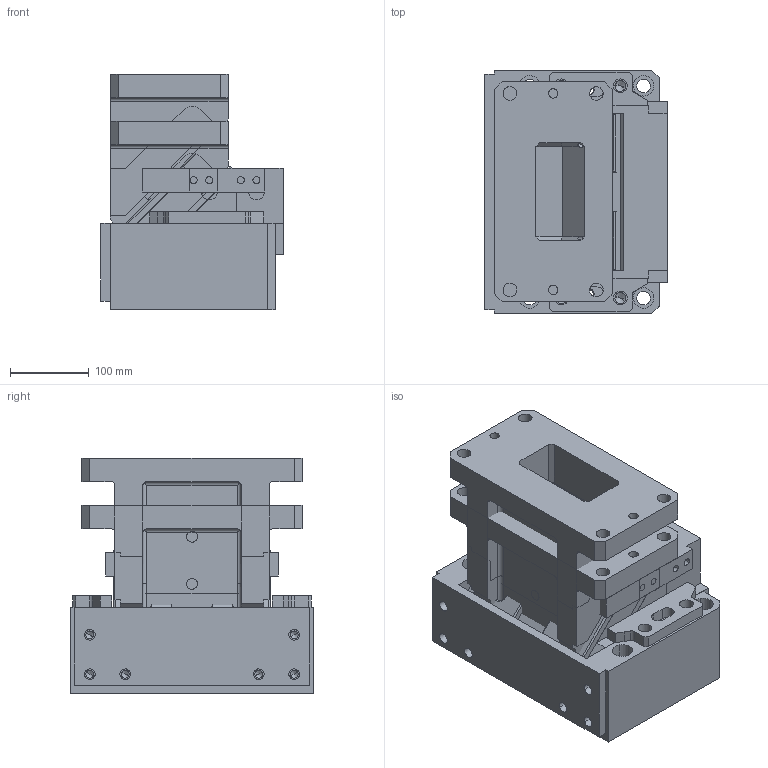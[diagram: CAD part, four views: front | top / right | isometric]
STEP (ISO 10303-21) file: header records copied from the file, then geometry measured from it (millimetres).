
FILE_DESCRIPTION(('CATIA V5 STEP','CAx-IF Rec.Pracs.--- Model Styling and Organization---1.4--- 2014-01-23','CAx-IF Rec.Pracs.---3D Tessellated Data Validation Properties---0.5---2014-09-14'),'2;1');
FILE_NAME('H:\_COMPRESS_2\2016.14.00.200.060.1.2__CM.stp','2020-11-18T12:54:22+00:00',('${USER}'),('AUDI AG, ${GROUP}'),'CATIA Version 5-6 Release 2018 SP3 HF27','CATIA V5 STEP AP242','none');
FILE_SCHEMA(('AP242_MANAGED_MODEL_BASED_3D_ENGINEERING_MIM_LF {1 0 10303 442 1 1 4}'));
Length unit declared in the file: millimetre
Products named in the file (1): 2016.14.00.200.060.1.2__CM
Bounding box: 232 x 310 x 300 mm (x, y, z)
Volume: 15528940.1 mm3; surface area: 1221127.7 mm2
Topology: 4 solids, 6 shells, 918 faces, 2294 edges, 1439 vertices
Faces by surface type: plane 479, cylinder 349, cone 52, torus 32, sphere 4, bspline 2
Entity records: 26245 total; most frequent: CARTESIAN_POINT 5807, ORIENTED_EDGE 4510, DIRECTION 3442, EDGE_CURVE 2255, VECTOR 1451, LINE 1451, VERTEX_POINT 1435, AXIS2_PLACEMENT_3D 1319
